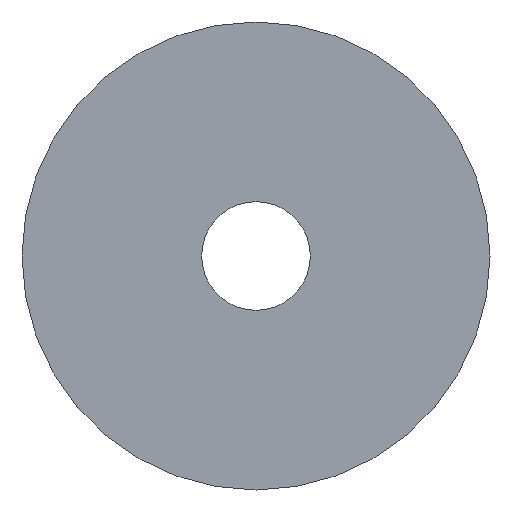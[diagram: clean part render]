
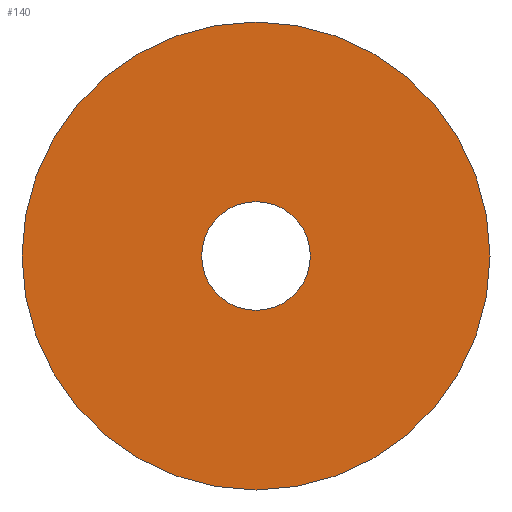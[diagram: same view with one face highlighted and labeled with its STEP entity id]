
A CAD part, left-side view. The second image highlights one B-rep face of the part: STEP entity #140.
In plain terms, the highlighted planar face has unit normal (-1, 0, 0).
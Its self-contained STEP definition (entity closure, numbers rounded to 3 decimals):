
#31 = CYLINDRICAL_SURFACE('',#32,28.);
#32 = AXIS2_PLACEMENT_3D('',#33,#34,#35);
#33 = CARTESIAN_POINT('',(522.,-550.,1185.));
#34 = DIRECTION('',(1.,0.,0.));
#35 = DIRECTION('',(-0.,0.,1.));
#56 = VERTEX_POINT('',#57);
#57 = CARTESIAN_POINT('',(522.,-550.,1213.));
#78 = EDGE_CURVE('',#56,#56,#79,.T.);
#79 = SURFACE_CURVE('',#80,(#85,#92),.PCURVE_S1.);
#80 = CIRCLE('',#81,28.);
#81 = AXIS2_PLACEMENT_3D('',#82,#83,#84);
#82 = CARTESIAN_POINT('',(522.,-550.,1185.));
#83 = DIRECTION('',(1.,0.,0.));
#84 = DIRECTION('',(-0.,0.,1.));
#85 = PCURVE('',#31,#86);
#86 = DEFINITIONAL_REPRESENTATION('',(#87),#91);
#87 = LINE('',#88,#89);
#88 = CARTESIAN_POINT('',(0.,0.));
#89 = VECTOR('',#90,1.);
#90 = DIRECTION('',(1.,0.));
#91 = ( GEOMETRIC_REPRESENTATION_CONTEXT(2) 
PARAMETRIC_REPRESENTATION_CONTEXT() REPRESENTATION_CONTEXT('2D SPACE',''
  ) );
#92 = PCURVE('',#93,#98);
#93 = PLANE('',#94);
#94 = AXIS2_PLACEMENT_3D('',#95,#96,#97);
#95 = CARTESIAN_POINT('',(522.,-550.,1185.));
#96 = DIRECTION('',(1.,0.,0.));
#97 = DIRECTION('',(-0.,0.,1.));
#98 = DEFINITIONAL_REPRESENTATION('',(#99),#103);
#99 = CIRCLE('',#100,28.);
#100 = AXIS2_PLACEMENT_2D('',#101,#102);
#101 = CARTESIAN_POINT('',(0.,0.));
#102 = DIRECTION('',(1.,0.));
#103 = ( GEOMETRIC_REPRESENTATION_CONTEXT(2) 
PARAMETRIC_REPRESENTATION_CONTEXT() REPRESENTATION_CONTEXT('2D SPACE',''
  ) );
#129 = CYLINDRICAL_SURFACE('',#130,6.5);
#130 = AXIS2_PLACEMENT_3D('',#131,#132,#133);
#131 = CARTESIAN_POINT('',(521.,-550.,1185.));
#132 = DIRECTION('',(1.,0.,0.));
#133 = DIRECTION('',(-0.,0.,1.));
#140 = ADVANCED_FACE('',(#141,#144),#93,.F.);
#141 = FACE_BOUND('',#142,.F.);
#142 = EDGE_LOOP('',(#143));
#143 = ORIENTED_EDGE('',*,*,#78,.T.);
#144 = FACE_BOUND('',#145,.F.);
#145 = EDGE_LOOP('',(#146));
#146 = ORIENTED_EDGE('',*,*,#147,.F.);
#147 = EDGE_CURVE('',#148,#148,#150,.T.);
#148 = VERTEX_POINT('',#149);
#149 = CARTESIAN_POINT('',(522.,-550.,1191.5));
#150 = SURFACE_CURVE('',#151,(#156,#163),.PCURVE_S1.);
#151 = CIRCLE('',#152,6.5);
#152 = AXIS2_PLACEMENT_3D('',#153,#154,#155);
#153 = CARTESIAN_POINT('',(522.,-550.,1185.));
#154 = DIRECTION('',(1.,0.,0.));
#155 = DIRECTION('',(-0.,0.,1.));
#156 = PCURVE('',#93,#157);
#157 = DEFINITIONAL_REPRESENTATION('',(#158),#162);
#158 = CIRCLE('',#159,6.5);
#159 = AXIS2_PLACEMENT_2D('',#160,#161);
#160 = CARTESIAN_POINT('',(0.,0.));
#161 = DIRECTION('',(1.,0.));
#162 = ( GEOMETRIC_REPRESENTATION_CONTEXT(2) 
PARAMETRIC_REPRESENTATION_CONTEXT() REPRESENTATION_CONTEXT('2D SPACE',''
  ) );
#163 = PCURVE('',#129,#164);
#164 = DEFINITIONAL_REPRESENTATION('',(#165),#169);
#165 = LINE('',#166,#167);
#166 = CARTESIAN_POINT('',(0.,1.));
#167 = VECTOR('',#168,1.);
#168 = DIRECTION('',(1.,0.));
#169 = ( GEOMETRIC_REPRESENTATION_CONTEXT(2) 
PARAMETRIC_REPRESENTATION_CONTEXT() REPRESENTATION_CONTEXT('2D SPACE',''
  ) );
